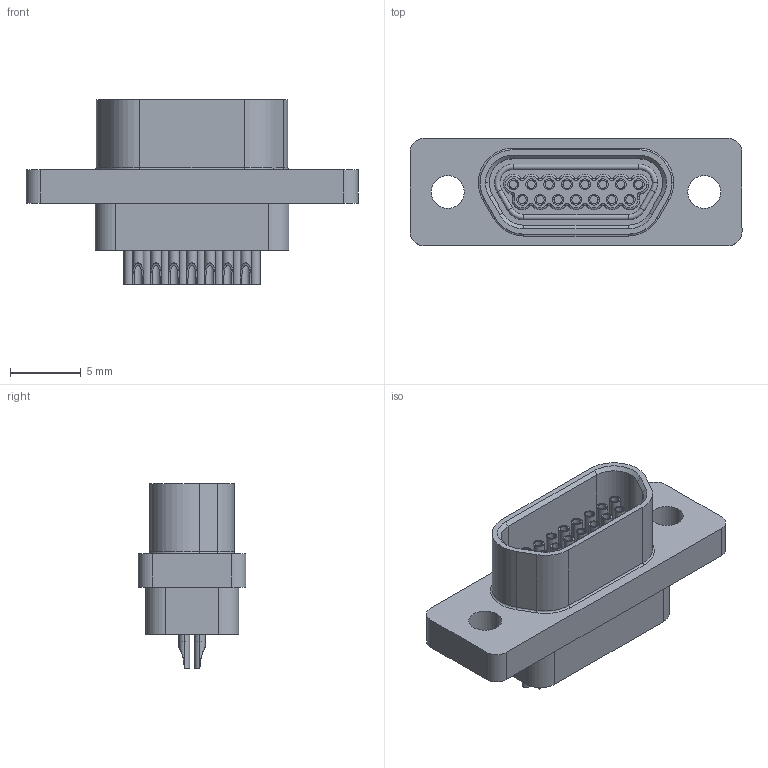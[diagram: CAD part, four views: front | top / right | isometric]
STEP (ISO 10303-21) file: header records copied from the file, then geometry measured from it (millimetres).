
FILE_DESCRIPTION (( 'STEP AP214' ), '1' );
FILE_NAME ('A99000-015 REV C.STEP', '2014-11-17T17:27:18', ( '' ), ( '' ), 'SwSTEP 2.0', 'SolidWorks 2014', '' );
FILE_SCHEMA (( 'AUTOMOTIVE_DESIGN' ));
Length unit declared in the file: inch
Products named in the file (1): A99000-015 REV B
Bounding box: 23.5 x 7.63 x 13.06 mm (x, y, z)
Volume: 834 mm3; surface area: 1268.6 mm2
Topology: 1 solids, 1 shells, 523 faces, 1264 edges, 776 vertices
Faces by surface type: cylinder 209, plane 188, bspline 48, torus 43, cone 35
Entity records: 18182 total; most frequent: CARTESIAN_POINT 6116, DIRECTION 2500, ORIENTED_EDGE 2468, EDGE_CURVE 1234, AXIS2_PLACEMENT_3D 916, VERTEX_POINT 776, LINE 668, VECTOR 668
